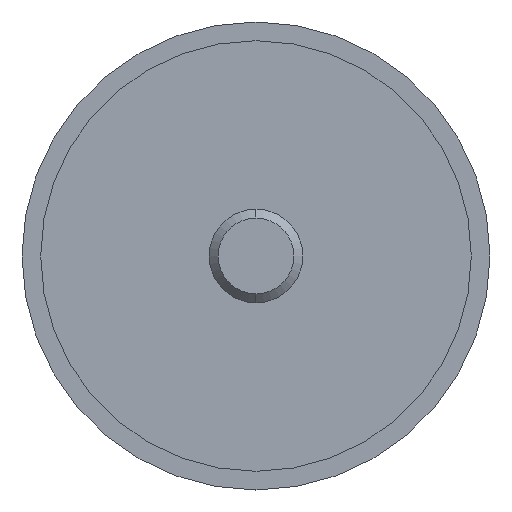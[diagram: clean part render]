
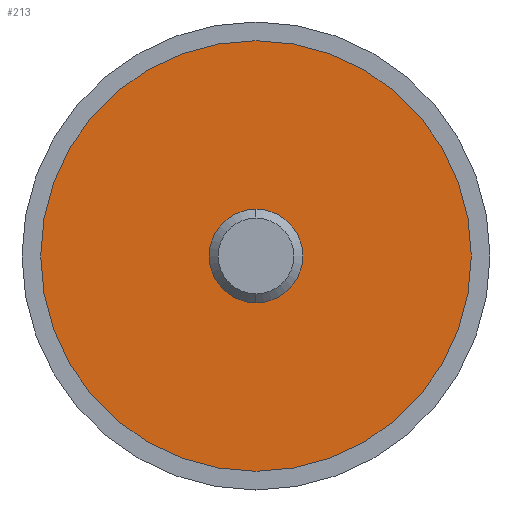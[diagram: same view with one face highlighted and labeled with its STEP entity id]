
A CAD part, left-side view. The second image highlights one B-rep face of the part: STEP entity #213.
In plain terms, the highlighted planar face has unit normal (-1, 0, 0).
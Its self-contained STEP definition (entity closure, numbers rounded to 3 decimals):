
#17 = DIRECTION ( 'NONE',  ( 0., 0., 1. ) ) ;
#39 = AXIS2_PLACEMENT_3D ( 'NONE', #593, #301, #129 ) ;
#54 = ORIENTED_EDGE ( 'NONE', *, *, #508, .T. ) ;
#55 = DIRECTION ( 'NONE',  ( -1., 0., 0. ) ) ;
#56 = EDGE_CURVE ( 'NONE', #618, #368, #335, .T. ) ;
#57 = DIRECTION ( 'NONE',  ( -1., 0., 0. ) ) ;
#60 = CARTESIAN_POINT ( 'NONE',  ( -17.49, 0., 0. ) ) ;
#61 = AXIS2_PLACEMENT_3D ( 'NONE', #391, #57, #17 ) ;
#67 = EDGE_CURVE ( 'NONE', #202, #395, #229, .T. ) ;
#94 = CARTESIAN_POINT ( 'NONE',  ( -17.49, 23., 0. ) ) ;
#126 = DIRECTION ( 'NONE',  ( 0., 0., -1. ) ) ;
#129 = DIRECTION ( 'NONE',  ( 0., 0., -1. ) ) ;
#152 = ORIENTED_EDGE ( 'NONE', *, *, #67, .T. ) ;
#172 = DIRECTION ( 'NONE',  ( 0., 0., 1. ) ) ;
#195 = CIRCLE ( 'NONE', #39, 5. ) ;
#202 = VERTEX_POINT ( 'NONE', #675 ) ;
#213 = ADVANCED_FACE ( 'NONE', ( #420, #627 ), #564, .F. ) ;
#229 = CIRCLE ( 'NONE', #283, 23. ) ;
#258 = CARTESIAN_POINT ( 'NONE',  ( -17.49, 0., 23. ) ) ;
#266 = EDGE_LOOP ( 'NONE', ( #268, #531 ) ) ;
#268 = ORIENTED_EDGE ( 'NONE', *, *, #584, .F. ) ;
#283 = AXIS2_PLACEMENT_3D ( 'NONE', #538, #432, #172 ) ;
#301 = DIRECTION ( 'NONE',  ( -1., 0., 0. ) ) ;
#311 = CARTESIAN_POINT ( 'NONE',  ( -17.49, 0., 5. ) ) ;
#335 = CIRCLE ( 'NONE', #608, 5. ) ;
#346 = CARTESIAN_POINT ( 'NONE',  ( -17.49, 0., -5. ) ) ;
#357 = AXIS2_PLACEMENT_3D ( 'NONE', #94, #467, #616 ) ;
#368 = VERTEX_POINT ( 'NONE', #311 ) ;
#369 = CIRCLE ( 'NONE', #61, 23. ) ;
#381 = EDGE_LOOP ( 'NONE', ( #54, #152 ) ) ;
#391 = CARTESIAN_POINT ( 'NONE',  ( -17.49, 0., 0. ) ) ;
#395 = VERTEX_POINT ( 'NONE', #258 ) ;
#420 = FACE_OUTER_BOUND ( 'NONE', #381, .T. ) ;
#432 = DIRECTION ( 'NONE',  ( -1., 0., 0. ) ) ;
#467 = DIRECTION ( 'NONE',  ( 1., 0., 0. ) ) ;
#508 = EDGE_CURVE ( 'NONE', #395, #202, #369, .T. ) ;
#531 = ORIENTED_EDGE ( 'NONE', *, *, #56, .F. ) ;
#538 = CARTESIAN_POINT ( 'NONE',  ( -17.49, 0., 0. ) ) ;
#564 = PLANE ( 'NONE',  #357 ) ;
#584 = EDGE_CURVE ( 'NONE', #368, #618, #195, .T. ) ;
#593 = CARTESIAN_POINT ( 'NONE',  ( -17.49, 0., 0. ) ) ;
#608 = AXIS2_PLACEMENT_3D ( 'NONE', #60, #55, #126 ) ;
#616 = DIRECTION ( 'NONE',  ( 0., 0., -1. ) ) ;
#618 = VERTEX_POINT ( 'NONE', #346 ) ;
#627 = FACE_BOUND ( 'NONE', #266, .T. ) ;
#675 = CARTESIAN_POINT ( 'NONE',  ( -17.49, 0., -23. ) ) ;
